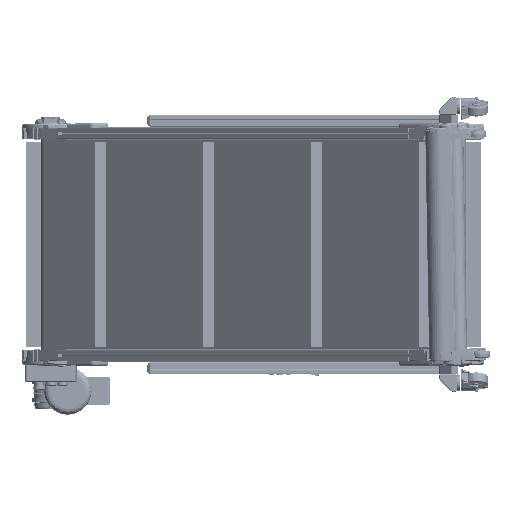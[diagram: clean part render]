
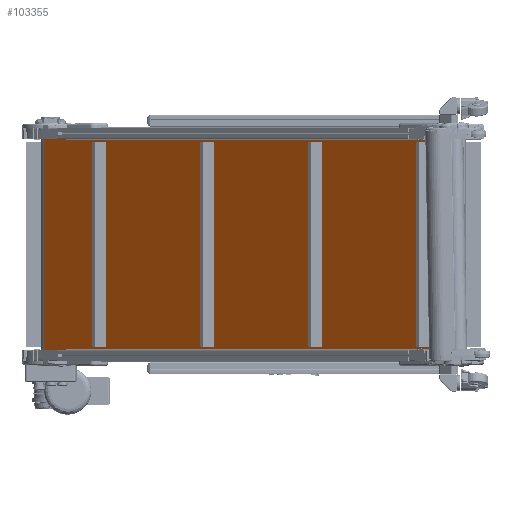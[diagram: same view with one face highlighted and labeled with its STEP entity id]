
A CAD part, left-side view. The second image highlights one B-rep face of the part: STEP entity #103355.
In plain terms, the highlighted planar face has unit normal (-0.707, 0.707, 0).
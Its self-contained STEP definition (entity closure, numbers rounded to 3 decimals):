
#7068 = CARTESIAN_POINT ( 'NONE',  ( 344.139, 33.151, 296.5 ) ) ;
#11525 = ORIENTED_EDGE ( 'NONE', *, *, #363554, .F. ) ;
#31976 = CARTESIAN_POINT ( 'NONE',  ( 344.139, 33.151, 296.5 ) ) ;
#37834 = DIRECTION ( 'NONE',  ( 0.707, 0.707, 0. ) ) ;
#48630 = EDGE_LOOP ( 'NONE', ( #301894, #52560, #11525, #392930 ) ) ;
#52560 = ORIENTED_EDGE ( 'NONE', *, *, #170928, .F. ) ;
#69141 = EDGE_CURVE ( 'NONE', #491235, #389791, #560783, .T. ) ;
#74137 = CARTESIAN_POINT ( 'NONE',  ( 344.139, 33.151, 296.5 ) ) ;
#74460 = CARTESIAN_POINT ( 'NONE',  ( 1390.154, 1079.166, -296.5 ) ) ;
#85254 = PLANE ( 'NONE',  #526512 ) ;
#103355 = ADVANCED_FACE ( 'NONE', ( #574862 ), #85254, .F. ) ;
#149083 = VECTOR ( 'NONE', #391564, 1000. ) ;
#160273 = DIRECTION ( 'NONE',  ( 0., 0., -1. ) ) ;
#161544 = LINE ( 'NONE', #167377, #449585 ) ;
#167377 = CARTESIAN_POINT ( 'NONE',  ( 1340.657, 1029.669, 296.5 ) ) ;
#170928 = EDGE_CURVE ( 'NONE', #535359, #261086, #258116, .T. ) ;
#171444 = DIRECTION ( 'NONE',  ( 0.707, -0.707, 0. ) ) ;
#181915 = VECTOR ( 'NONE', #160273, 1000. ) ;
#207482 = EDGE_CURVE ( 'NONE', #389791, #261086, #301710, .T. ) ;
#217700 = DIRECTION ( 'NONE',  ( -0.707, -0.707, 0. ) ) ;
#248443 = CARTESIAN_POINT ( 'NONE',  ( 344.139, 33.151, -296.5 ) ) ;
#258116 = LINE ( 'NONE', #74137, #149083 ) ;
#261086 = VERTEX_POINT ( 'NONE', #308501 ) ;
#271289 = VECTOR ( 'NONE', #381964, 1000. ) ;
#296501 = CARTESIAN_POINT ( 'NONE',  ( 1390.154, 1079.166, 296.5 ) ) ;
#301710 = LINE ( 'NONE', #248443, #271289 ) ;
#301894 = ORIENTED_EDGE ( 'NONE', *, *, #207482, .T. ) ;
#308501 = CARTESIAN_POINT ( 'NONE',  ( 344.139, 33.151, -296.5 ) ) ;
#363554 = EDGE_CURVE ( 'NONE', #491235, #535359, #161544, .T. ) ;
#381964 = DIRECTION ( 'NONE',  ( -0.707, -0.707, 0. ) ) ;
#389791 = VERTEX_POINT ( 'NONE', #74460 ) ;
#391564 = DIRECTION ( 'NONE',  ( 0., 0., -1. ) ) ;
#392930 = ORIENTED_EDGE ( 'NONE', *, *, #69141, .T. ) ;
#449585 = VECTOR ( 'NONE', #217700, 1000. ) ;
#491235 = VERTEX_POINT ( 'NONE', #296501 ) ;
#526512 = AXIS2_PLACEMENT_3D ( 'NONE', #31976, #171444, #37834 ) ;
#535359 = VERTEX_POINT ( 'NONE', #7068 ) ;
#560783 = LINE ( 'NONE', #569517, #181915 ) ;
#569517 = CARTESIAN_POINT ( 'NONE',  ( 1390.154, 1079.166, 296.5 ) ) ;
#574862 = FACE_OUTER_BOUND ( 'NONE', #48630, .T. ) ;
